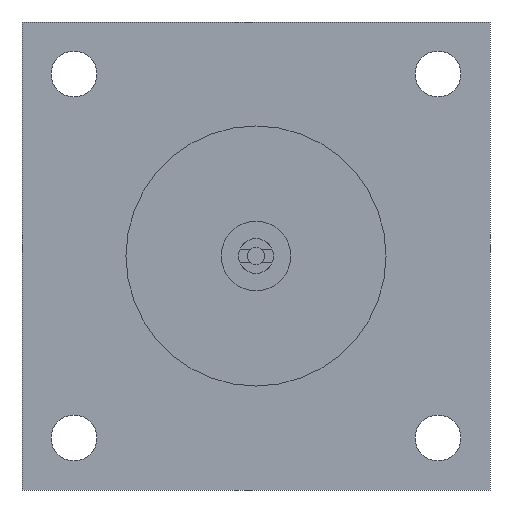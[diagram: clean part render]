
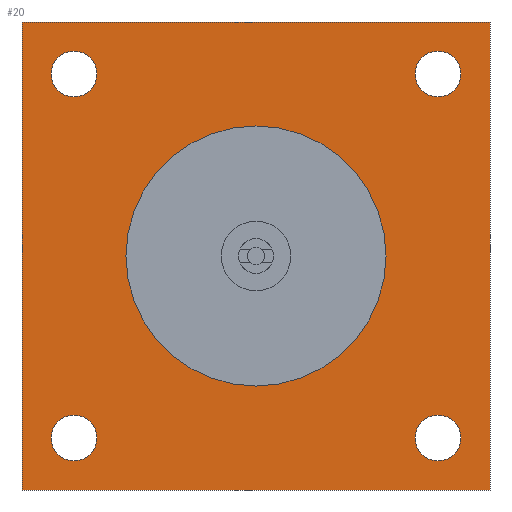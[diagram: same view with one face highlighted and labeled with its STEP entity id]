
A CAD part, left-side view. The second image highlights one B-rep face of the part: STEP entity #20.
In plain terms, the highlighted planar face has unit normal (-1, 0, 0).
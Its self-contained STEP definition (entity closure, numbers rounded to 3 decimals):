
#2 = DIRECTION ( 'NONE',  ( 0., 0., 1. ) ) ;
#4 = AXIS2_PLACEMENT_3D ( 'NONE', #875, #624, #480 ) ;
#20 = ADVANCED_FACE ( 'NONE', ( #653, #958, #1035, #1298, #1004, #304 ), #378, .F. ) ;
#28 = VECTOR ( 'NONE', #1058, 1000. ) ;
#44 = LINE ( 'NONE', #1370, #28 ) ;
#59 = CARTESIAN_POINT ( 'NONE',  ( -25., 0., 75. ) ) ;
#68 = ORIENTED_EDGE ( 'NONE', *, *, #1120, .F. ) ;
#79 = CARTESIAN_POINT ( 'NONE',  ( -25., 105., -105. ) ) ;
#90 = LINE ( 'NONE', #1530, #236 ) ;
#96 = ORIENTED_EDGE ( 'NONE', *, *, #1705, .T. ) ;
#110 = CARTESIAN_POINT ( 'NONE',  ( -25., -105., 118.25 ) ) ;
#130 = CARTESIAN_POINT ( 'NONE',  ( -25., -105., 91.75 ) ) ;
#140 = CARTESIAN_POINT ( 'NONE',  ( -25., -135., 135. ) ) ;
#162 = CARTESIAN_POINT ( 'NONE',  ( -25., 135., 135. ) ) ;
#196 = VERTEX_POINT ( 'NONE', #1514 ) ;
#218 = CARTESIAN_POINT ( 'NONE',  ( -25., -105., -91.75 ) ) ;
#222 = CARTESIAN_POINT ( 'NONE',  ( -25., -105., 105. ) ) ;
#224 = DIRECTION ( 'NONE',  ( -1., 0., 0. ) ) ;
#235 = VERTEX_POINT ( 'NONE', #1014 ) ;
#236 = VECTOR ( 'NONE', #635, 1000. ) ;
#237 = DIRECTION ( 'NONE',  ( 0., 0., 1. ) ) ;
#283 = CIRCLE ( 'NONE', #1361, 75. ) ;
#296 = ORIENTED_EDGE ( 'NONE', *, *, #1046, .F. ) ;
#304 = FACE_OUTER_BOUND ( 'NONE', #1124, .T. ) ;
#378 = PLANE ( 'NONE',  #4 ) ;
#381 = VERTEX_POINT ( 'NONE', #162 ) ;
#397 = EDGE_CURVE ( 'NONE', #1105, #952, #1256, .T. ) ;
#408 = VERTEX_POINT ( 'NONE', #59 ) ;
#409 = DIRECTION ( 'NONE',  ( -1., 0., 0. ) ) ;
#434 = CARTESIAN_POINT ( 'NONE',  ( -25., 105., -105. ) ) ;
#441 = DIRECTION ( 'NONE',  ( 0., 0., 1. ) ) ;
#458 = EDGE_CURVE ( 'NONE', #965, #738, #983, .T. ) ;
#480 = DIRECTION ( 'NONE',  ( 0., 0., -1. ) ) ;
#560 = VERTEX_POINT ( 'NONE', #1064 ) ;
#612 = ORIENTED_EDGE ( 'NONE', *, *, #458, .F. ) ;
#618 = ORIENTED_EDGE ( 'NONE', *, *, #1685, .T. ) ;
#622 = VERTEX_POINT ( 'NONE', #1454 ) ;
#624 = DIRECTION ( 'NONE',  ( 1., 0., 0. ) ) ;
#635 = DIRECTION ( 'NONE',  ( 0., 0., -1. ) ) ;
#648 = CARTESIAN_POINT ( 'NONE',  ( -25., -105., -118.25 ) ) ;
#653 = FACE_BOUND ( 'NONE', #698, .T. ) ;
#665 = AXIS2_PLACEMENT_3D ( 'NONE', #434, #409, #441 ) ;
#679 = CARTESIAN_POINT ( 'NONE',  ( -25., -105., -105. ) ) ;
#685 = DIRECTION ( 'NONE',  ( -1., 0., 0. ) ) ;
#698 = EDGE_LOOP ( 'NONE', ( #68, #1552 ) ) ;
#704 = DIRECTION ( 'NONE',  ( 0., 0., 1. ) ) ;
#722 = VERTEX_POINT ( 'NONE', #1793 ) ;
#734 = VERTEX_POINT ( 'NONE', #140 ) ;
#738 = VERTEX_POINT ( 'NONE', #110 ) ;
#806 = LINE ( 'NONE', #1522, #1489 ) ;
#816 = EDGE_LOOP ( 'NONE', ( #1159, #1638 ) ) ;
#821 = CARTESIAN_POINT ( 'NONE',  ( -25., 135., -135. ) ) ;
#822 = AXIS2_PLACEMENT_3D ( 'NONE', #825, #913, #2 ) ;
#825 = CARTESIAN_POINT ( 'NONE',  ( -25., -105., -105. ) ) ;
#865 = AXIS2_PLACEMENT_3D ( 'NONE', #222, #224, #237 ) ;
#875 = CARTESIAN_POINT ( 'NONE',  ( -25., 0., 0. ) ) ;
#892 = ORIENTED_EDGE ( 'NONE', *, *, #1695, .T. ) ;
#913 = DIRECTION ( 'NONE',  ( -1., 0., 0. ) ) ;
#933 = CARTESIAN_POINT ( 'NONE',  ( -25., 0., -75. ) ) ;
#952 = VERTEX_POINT ( 'NONE', #218 ) ;
#958 = FACE_BOUND ( 'NONE', #1271, .T. ) ;
#961 = ORIENTED_EDGE ( 'NONE', *, *, #1667, .T. ) ;
#965 = VERTEX_POINT ( 'NONE', #130 ) ;
#970 = EDGE_CURVE ( 'NONE', #1274, #235, #1606, .T. ) ;
#978 = CARTESIAN_POINT ( 'NONE',  ( -25., 0., 0. ) ) ;
#980 = DIRECTION ( 'NONE',  ( -1., 0., 0. ) ) ;
#983 = CIRCLE ( 'NONE', #865, 13.25 ) ;
#984 = DIRECTION ( 'NONE',  ( 0., 0., -1. ) ) ;
#998 = CARTESIAN_POINT ( 'NONE',  ( -25., -105., 105. ) ) ;
#1003 = DIRECTION ( 'NONE',  ( -1., 0., 0. ) ) ;
#1004 = FACE_BOUND ( 'NONE', #816, .T. ) ;
#1014 = CARTESIAN_POINT ( 'NONE',  ( -25., 105., -91.75 ) ) ;
#1016 = DIRECTION ( 'NONE',  ( 0., 0., 1. ) ) ;
#1017 = CARTESIAN_POINT ( 'NONE',  ( -25., 0., 0. ) ) ;
#1035 = FACE_BOUND ( 'NONE', #1621, .T. ) ;
#1046 = EDGE_CURVE ( 'NONE', #952, #1105, #1247, .T. ) ;
#1049 = ORIENTED_EDGE ( 'NONE', *, *, #1176, .F. ) ;
#1058 = DIRECTION ( 'NONE',  ( 0., 0., 1. ) ) ;
#1060 = ORIENTED_EDGE ( 'NONE', *, *, #1143, .F. ) ;
#1061 = CARTESIAN_POINT ( 'NONE',  ( -25., 105., 105. ) ) ;
#1064 = CARTESIAN_POINT ( 'NONE',  ( -25., 105., 118.25 ) ) ;
#1073 = DIRECTION ( 'NONE',  ( -1., 0., 0. ) ) ;
#1085 = DIRECTION ( 'NONE',  ( 0., 0., 1. ) ) ;
#1104 = CIRCLE ( 'NONE', #1546, 13.25 ) ;
#1105 = VERTEX_POINT ( 'NONE', #648 ) ;
#1120 = EDGE_CURVE ( 'NONE', #1172, #408, #1206, .T. ) ;
#1124 = EDGE_LOOP ( 'NONE', ( #618, #961, #892, #96 ) ) ;
#1132 = EDGE_CURVE ( 'NONE', #738, #965, #1190, .T. ) ;
#1142 = DIRECTION ( 'NONE',  ( -1., 0., 0. ) ) ;
#1143 = EDGE_CURVE ( 'NONE', #560, #196, #1187, .T. ) ;
#1146 = CARTESIAN_POINT ( 'NONE',  ( -25., 105., 105. ) ) ;
#1157 = DIRECTION ( 'NONE',  ( -1., 0., 0. ) ) ;
#1159 = ORIENTED_EDGE ( 'NONE', *, *, #1648, .F. ) ;
#1161 = DIRECTION ( 'NONE',  ( 0., 0., 1. ) ) ;
#1172 = VERTEX_POINT ( 'NONE', #933 ) ;
#1176 = EDGE_CURVE ( 'NONE', #196, #560, #1104, .T. ) ;
#1187 = CIRCLE ( 'NONE', #1692, 13.25 ) ;
#1190 = CIRCLE ( 'NONE', #1390, 13.25 ) ;
#1200 = AXIS2_PLACEMENT_3D ( 'NONE', #79, #1142, #1227 ) ;
#1206 = CIRCLE ( 'NONE', #1415, 75. ) ;
#1227 = DIRECTION ( 'NONE',  ( 0., 0., 1. ) ) ;
#1247 = CIRCLE ( 'NONE', #1375, 13.25 ) ;
#1256 = CIRCLE ( 'NONE', #822, 13.25 ) ;
#1258 = ORIENTED_EDGE ( 'NONE', *, *, #397, .F. ) ;
#1271 = EDGE_LOOP ( 'NONE', ( #1374, #612 ) ) ;
#1274 = VERTEX_POINT ( 'NONE', #1600 ) ;
#1298 = FACE_BOUND ( 'NONE', #1300, .T. ) ;
#1300 = EDGE_LOOP ( 'NONE', ( #1060, #1049 ) ) ;
#1361 = AXIS2_PLACEMENT_3D ( 'NONE', #1017, #1653, #1726 ) ;
#1366 = CIRCLE ( 'NONE', #1200, 13.25 ) ;
#1370 = CARTESIAN_POINT ( 'NONE',  ( -25., -135., 135. ) ) ;
#1374 = ORIENTED_EDGE ( 'NONE', *, *, #1132, .F. ) ;
#1375 = AXIS2_PLACEMENT_3D ( 'NONE', #679, #685, #704 ) ;
#1390 = AXIS2_PLACEMENT_3D ( 'NONE', #998, #1003, #1016 ) ;
#1393 = LINE ( 'NONE', #821, #1671 ) ;
#1415 = AXIS2_PLACEMENT_3D ( 'NONE', #978, #980, #984 ) ;
#1454 = CARTESIAN_POINT ( 'NONE',  ( -25., 135., -135. ) ) ;
#1489 = VECTOR ( 'NONE', #1787, 1000. ) ;
#1501 = EDGE_CURVE ( 'NONE', #408, #1172, #283, .T. ) ;
#1505 = DIRECTION ( 'NONE',  ( 0., -1., 0. ) ) ;
#1514 = CARTESIAN_POINT ( 'NONE',  ( -25., 105., 91.75 ) ) ;
#1522 = CARTESIAN_POINT ( 'NONE',  ( -25., 135., 135. ) ) ;
#1530 = CARTESIAN_POINT ( 'NONE',  ( -25., 135., 135. ) ) ;
#1546 = AXIS2_PLACEMENT_3D ( 'NONE', #1146, #1157, #1161 ) ;
#1552 = ORIENTED_EDGE ( 'NONE', *, *, #1501, .F. ) ;
#1600 = CARTESIAN_POINT ( 'NONE',  ( -25., 105., -118.25 ) ) ;
#1606 = CIRCLE ( 'NONE', #665, 13.25 ) ;
#1621 = EDGE_LOOP ( 'NONE', ( #296, #1258 ) ) ;
#1638 = ORIENTED_EDGE ( 'NONE', *, *, #970, .F. ) ;
#1648 = EDGE_CURVE ( 'NONE', #235, #1274, #1366, .T. ) ;
#1653 = DIRECTION ( 'NONE',  ( -1., 0., 0. ) ) ;
#1667 = EDGE_CURVE ( 'NONE', #722, #734, #44, .T. ) ;
#1671 = VECTOR ( 'NONE', #1505, 1000. ) ;
#1685 = EDGE_CURVE ( 'NONE', #622, #722, #1393, .T. ) ;
#1692 = AXIS2_PLACEMENT_3D ( 'NONE', #1061, #1073, #1085 ) ;
#1695 = EDGE_CURVE ( 'NONE', #734, #381, #806, .T. ) ;
#1705 = EDGE_CURVE ( 'NONE', #381, #622, #90, .T. ) ;
#1726 = DIRECTION ( 'NONE',  ( 0., 0., -1. ) ) ;
#1787 = DIRECTION ( 'NONE',  ( 0., 1., 0. ) ) ;
#1793 = CARTESIAN_POINT ( 'NONE',  ( -25., -135., -135. ) ) ;
